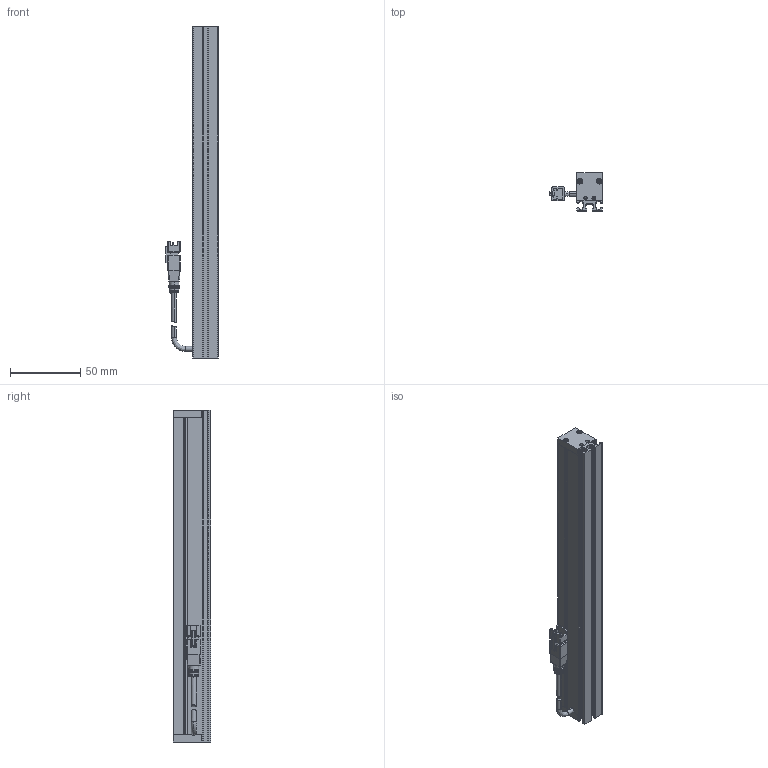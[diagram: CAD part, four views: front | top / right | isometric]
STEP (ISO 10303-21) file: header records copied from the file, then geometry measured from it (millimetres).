
FILE_DESCRIPTION (( 'STEP AP203' ), '1' );
FILE_NAME ('CK-BL23718.STEP', '2025-12-26T07:51:44', ( '' ), ( '' ), 'SwSTEP 2.0', 'SolidWorks 2022', '' );
FILE_SCHEMA (( 'CONFIG_CONTROL_DESIGN' ));
Length unit declared in the file: millimetre
Products named in the file (6): CK-BL23718-001A; CK-BL23718-003A; CK-BL23718; 光源线-01; CK-BL23718-002A; 十字沉头螺丝 M2x10
Assembly tree (9 placements, depth 2):
  CK-BL23718
    CK-BL23718-001A
    CK-BL23718-002A  x2
    CK-BL23718-003A
    光源线-01
    十字沉头螺丝 M2x10  x4
Bounding box: 37.34 x 27 x 237 mm (x, y, z)
Volume: 55882.1 mm3; surface area: 55175.1 mm2
Topology: 11 solids, 11 shells, 474 faces, 1231 edges, 780 vertices
Faces by surface type: plane 271, cylinder 149, cone 34, bspline 20
Entity records: 12442 total; most frequent: CARTESIAN_POINT 2514, ORIENTED_EDGE 1936, DIRECTION 1916, EDGE_CURVE 968, LINE 668, VECTOR 668, VERTEX_POINT 626, AXIS2_PLACEMENT_3D 624
